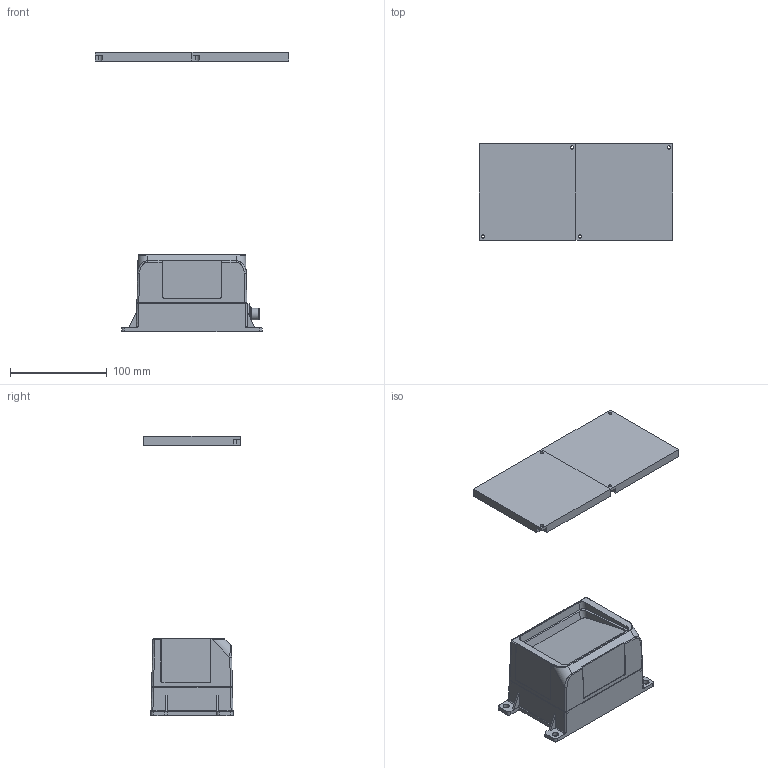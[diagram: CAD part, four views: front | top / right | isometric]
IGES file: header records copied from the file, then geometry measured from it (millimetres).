
Bounding box: 200 x 100 x 288.4 mm (x, y, z)
Surface area: 139293.7 mm2 (no closed solid volume)
Topology: 0 solids, 0 shells, 345 faces, 3873 edges, 3873 vertices
Faces by surface type: bspline 345
